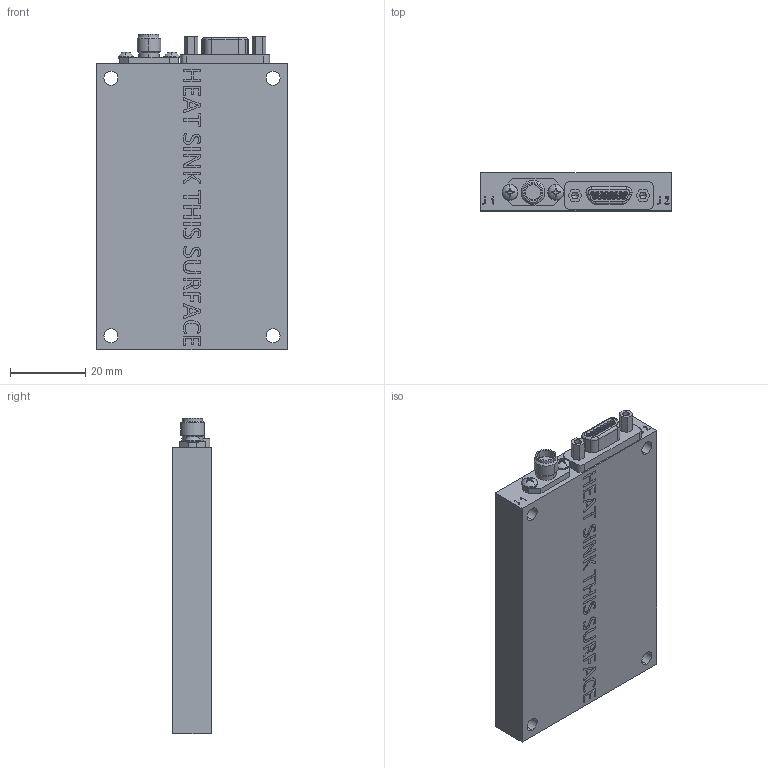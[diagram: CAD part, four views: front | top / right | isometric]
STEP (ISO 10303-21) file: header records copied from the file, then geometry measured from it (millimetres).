
FILE_DESCRIPTION (( 'STEP AP203' ), '1' );
FILE_NAME ('QS-TX-02BAXXX.STEP', '2024-04-29T20:11:12', ( '' ), ( '' ), 'SwSTEP 2.0', 'SolidWorks 2021', '' );
FILE_SCHEMA (( 'CONFIG_CONTROL_DESIGN' ));
Products named in the file (1): QS-TX-02BAXXX
Bounding box: 50.8 x 10.16 x 84.14 mm (x, y, z)
Volume: 40230.7 mm3; surface area: 13569.4 mm2
Topology: 7 solids, 7 shells, 916 faces, 2316 edges, 1510 vertices
Faces by surface type: plane 343, bspline 291, cylinder 207, cone 50, torus 21, sphere 4
Entity records: 37746 total; most frequent: CARTESIAN_POINT 17434, ORIENTED_EDGE 4600, DIRECTION 3375, EDGE_CURVE 2300, VERTEX_POINT 1510, VECTOR 1153, LINE 1153, AXIS2_PLACEMENT_3D 1111
